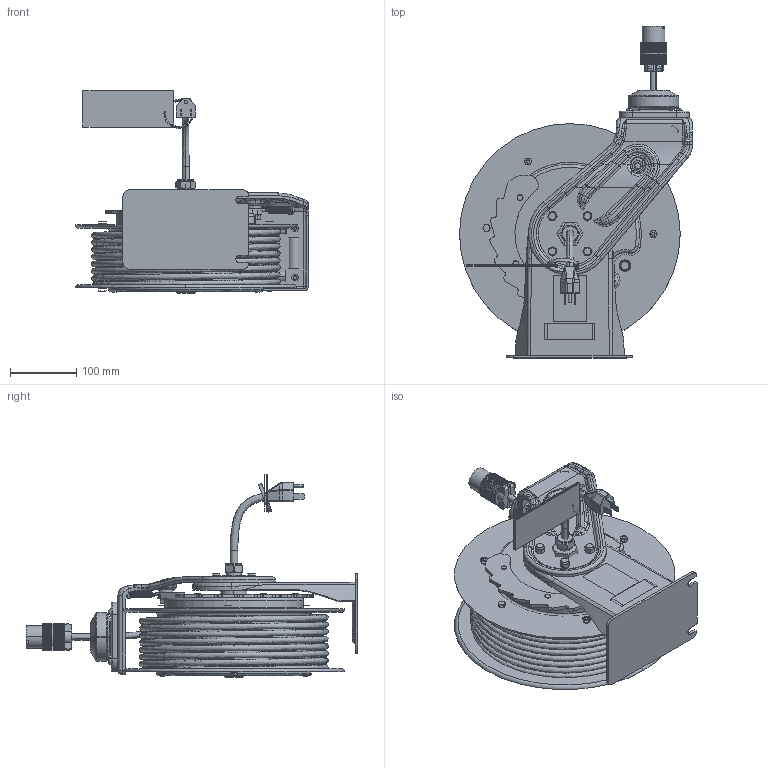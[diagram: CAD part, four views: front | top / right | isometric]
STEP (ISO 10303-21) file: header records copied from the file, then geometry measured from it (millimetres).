
FILE_DESCRIPTION((''),'2;1');
FILE_NAME('24Y858-EN-E_PRT','2022-06-21T14:33:02',('qufmd1'),(''),'CREO PARAMETRIC BY PTC INC, 2021072','CREO PARAMETRIC BY PTC INC, 2021072','');
FILE_SCHEMA(('CONFIG_CONTROL_DESIGN'));
Products named in the file (1): 24Y858-EN-E_PRT
Bounding box: 351.5 x 500.99 x 305.83 mm (x, y, z)
Surface area: 1380367 mm2 (no closed solid volume)
Topology: 0 solids, 163 shells, 1399 faces, 4184 edges, 2826 vertices
Faces by surface type: plane 375, cylinder 347, bspline 327, cone 209, torus 116, sphere 20, extrusion 5
Entity records: 95937 total; most frequent: CARTESIAN_POINT 62377, ORIENTED_EDGE 6730, DIRECTION 6324, EDGE_CURVE 4176, VERTEX_POINT 2826, AXIS2_PLACEMENT_3D 2507, CIRCLE 1438, B_SPLINE_CURVE_WITH_KNOTS 1436
